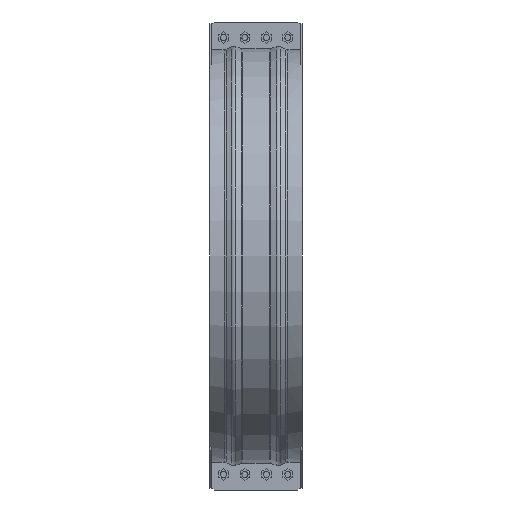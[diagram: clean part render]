
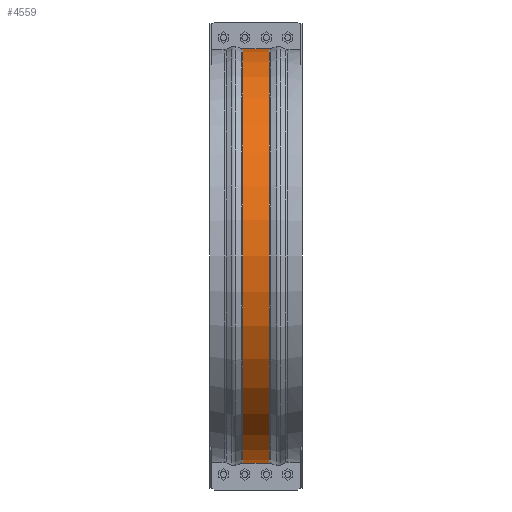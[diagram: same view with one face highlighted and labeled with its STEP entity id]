
A CAD part, front view. The second image highlights one B-rep face of the part: STEP entity #4559.
In plain terms, the highlighted cylindrical face has radius 857.552 mm (diameter 1715.1 mm), a partial arc.
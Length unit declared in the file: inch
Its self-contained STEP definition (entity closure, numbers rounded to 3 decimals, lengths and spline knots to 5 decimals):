
#414=FACE_OUTER_BOUND('',#671,.T.);
#671=EDGE_LOOP('',(#3465,#3466,#3467,#3468));
#1036=LINE('',#7017,#1485);
#1044=LINE('',#7149,#1493);
#1485=VECTOR('',#5630,0.3937);
#1493=VECTOR('',#5690,0.3937);
#1771=CIRCLE('',#4875,33.76189);
#1773=CIRCLE('',#4879,33.76189);
#2060=VERTEX_POINT('',#7009);
#2061=VERTEX_POINT('',#7016);
#2076=VERTEX_POINT('',#7134);
#2078=VERTEX_POINT('',#7147);
#2565=EDGE_CURVE('',#2061,#2060,#1036,.T.);
#2590=EDGE_CURVE('',#2076,#2061,#1771,.T.);
#2594=EDGE_CURVE('',#2078,#2060,#1773,.T.);
#2595=EDGE_CURVE('',#2078,#2076,#1044,.T.);
#3465=ORIENTED_EDGE('',*,*,#2565,.T.);
#3466=ORIENTED_EDGE('',*,*,#2594,.F.);
#3467=ORIENTED_EDGE('',*,*,#2595,.T.);
#3468=ORIENTED_EDGE('',*,*,#2590,.T.);
#4182=CYLINDRICAL_SURFACE('',#4878,33.76189);
#4559=ADVANCED_FACE('',(#414),#4182,.T.);
#4875=AXIS2_PLACEMENT_3D('',#7135,#5679,#5680);
#4878=AXIS2_PLACEMENT_3D('',#7146,#5686,#5687);
#4879=AXIS2_PLACEMENT_3D('',#7148,#5688,#5689);
#5630=DIRECTION('',(1.,0.,0.));
#5679=DIRECTION('center_axis',(1.,0.,0.));
#5680=DIRECTION('ref_axis',(0.,0.,-1.));
#5686=DIRECTION('center_axis',(1.,0.,0.));
#5687=DIRECTION('ref_axis',(0.,-1.,0.));
#5688=DIRECTION('center_axis',(1.,0.,0.));
#5689=DIRECTION('ref_axis',(0.,0.,-1.));
#5690=DIRECTION('',(-1.,0.,0.));
#7009=CARTESIAN_POINT('',(2.15101,-0.375,-33.75981));
#7016=CARTESIAN_POINT('',(-2.15101,-0.375,-33.75981));
#7017=CARTESIAN_POINT('',(0.,-0.375,-33.75981));
#7134=CARTESIAN_POINT('',(-2.15101,-0.375,33.75981));
#7135=CARTESIAN_POINT('Origin',(-2.15101,0.,0.));
#7146=CARTESIAN_POINT('Origin',(0.,0.,0.));
#7147=CARTESIAN_POINT('',(2.15101,-0.375,33.75981));
#7148=CARTESIAN_POINT('Origin',(2.15101,0.,0.));
#7149=CARTESIAN_POINT('',(0.,-0.375,33.75981));
